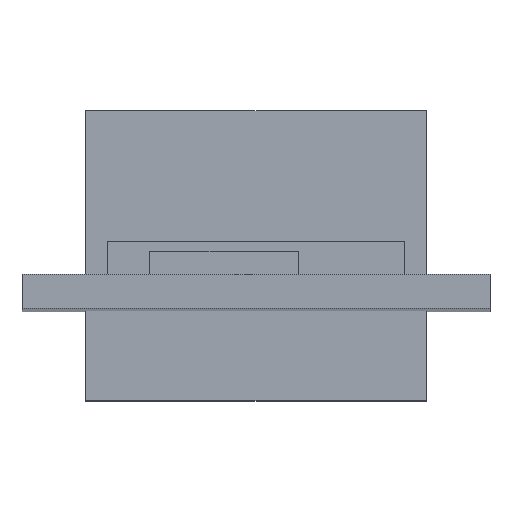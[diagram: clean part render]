
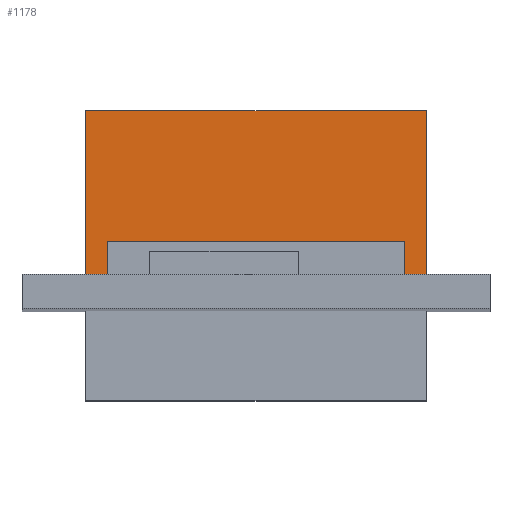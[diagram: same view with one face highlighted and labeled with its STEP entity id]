
A CAD part, top view. The second image highlights one B-rep face of the part: STEP entity #1178.
In plain terms, the highlighted planar face has unit normal (0, 0, 1).
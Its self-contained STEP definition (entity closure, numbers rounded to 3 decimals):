
#452 = PLANE('',#453);
#453 = AXIS2_PLACEMENT_3D('',#454,#455,#456);
#454 = CARTESIAN_POINT('',(-11.,0.8,6.));
#455 = DIRECTION('',(-0.,1.,0.));
#456 = DIRECTION('',(0.,0.,1.));
#480 = PLANE('',#481);
#481 = AXIS2_PLACEMENT_3D('',#482,#483,#484);
#482 = CARTESIAN_POINT('',(8.,-5.,6.));
#483 = DIRECTION('',(1.,0.,-0.));
#484 = DIRECTION('',(0.,0.,1.));
#508 = PLANE('',#509);
#509 = AXIS2_PLACEMENT_3D('',#510,#511,#512);
#510 = CARTESIAN_POINT('',(-8.,8.6,6.));
#511 = DIRECTION('',(-0.,1.,0.));
#512 = DIRECTION('',(0.,0.,1.));
#536 = PLANE('',#537);
#537 = AXIS2_PLACEMENT_3D('',#538,#539,#540);
#538 = CARTESIAN_POINT('',(-8.,-5.,6.));
#539 = DIRECTION('',(1.,0.,-0.));
#540 = DIRECTION('',(0.,0.,1.));
#761 = VERTEX_POINT('',#762);
#762 = CARTESIAN_POINT('',(8.,0.8,27.5));
#781 = EDGE_CURVE('',#782,#761,#784,.T.);
#782 = VERTEX_POINT('',#783);
#783 = CARTESIAN_POINT('',(-8.,0.8,27.5));
#784 = SURFACE_CURVE('',#785,(#789,#795),.PCURVE_S1.);
#785 = LINE('',#786,#787);
#786 = CARTESIAN_POINT('',(-9.5,0.8,27.5));
#787 = VECTOR('',#788,1.);
#788 = DIRECTION('',(1.,0.,-0.));
#789 = PCURVE('',#452,#790);
#790 = DEFINITIONAL_REPRESENTATION('',(#791),#794);
#791 = B_SPLINE_CURVE_WITH_KNOTS('',1,(#792,#793),.UNSPECIFIED.,.F.,.F.,
  (2,2),(1.5,17.5),.PIECEWISE_BEZIER_KNOTS.);
#792 = CARTESIAN_POINT('',(21.5,3.));
#793 = CARTESIAN_POINT('',(21.5,19.));
#794 = ( GEOMETRIC_REPRESENTATION_CONTEXT(2) 
PARAMETRIC_REPRESENTATION_CONTEXT() REPRESENTATION_CONTEXT('2D SPACE',''
  ) );
#795 = PCURVE('',#796,#801);
#796 = PLANE('',#797);
#797 = AXIS2_PLACEMENT_3D('',#798,#799,#800);
#798 = CARTESIAN_POINT('',(-8.,-5.,27.5));
#799 = DIRECTION('',(0.,0.,1.));
#800 = DIRECTION('',(1.,0.,-0.));
#801 = DEFINITIONAL_REPRESENTATION('',(#802),#805);
#802 = B_SPLINE_CURVE_WITH_KNOTS('',1,(#803,#804),.UNSPECIFIED.,.F.,.F.,
  (2,2),(1.5,17.5),.PIECEWISE_BEZIER_KNOTS.);
#803 = CARTESIAN_POINT('',(0.,5.8));
#804 = CARTESIAN_POINT('',(16.,5.8));
#805 = ( GEOMETRIC_REPRESENTATION_CONTEXT(2) 
PARAMETRIC_REPRESENTATION_CONTEXT() REPRESENTATION_CONTEXT('2D SPACE',''
  ) );
#1057 = EDGE_CURVE('',#761,#1058,#1060,.T.);
#1058 = VERTEX_POINT('',#1059);
#1059 = CARTESIAN_POINT('',(8.,8.6,27.5));
#1060 = SURFACE_CURVE('',#1061,(#1065,#1072),.PCURVE_S1.);
#1061 = LINE('',#1062,#1063);
#1062 = CARTESIAN_POINT('',(8.,-5.,27.5));
#1063 = VECTOR('',#1064,1.);
#1064 = DIRECTION('',(-0.,1.,0.));
#1065 = PCURVE('',#480,#1066);
#1066 = DEFINITIONAL_REPRESENTATION('',(#1067),#1071);
#1067 = LINE('',#1068,#1069);
#1068 = CARTESIAN_POINT('',(21.5,0.));
#1069 = VECTOR('',#1070,1.);
#1070 = DIRECTION('',(0.,-1.));
#1071 = ( GEOMETRIC_REPRESENTATION_CONTEXT(2) 
PARAMETRIC_REPRESENTATION_CONTEXT() REPRESENTATION_CONTEXT('2D SPACE',''
  ) );
#1072 = PCURVE('',#796,#1073);
#1073 = DEFINITIONAL_REPRESENTATION('',(#1074),#1078);
#1074 = LINE('',#1075,#1076);
#1075 = CARTESIAN_POINT('',(16.,0.));
#1076 = VECTOR('',#1077,1.);
#1077 = DIRECTION('',(0.,1.));
#1078 = ( GEOMETRIC_REPRESENTATION_CONTEXT(2) 
PARAMETRIC_REPRESENTATION_CONTEXT() REPRESENTATION_CONTEXT('2D SPACE',''
  ) );
#1108 = VERTEX_POINT('',#1109);
#1109 = CARTESIAN_POINT('',(-8.,8.6,27.5));
#1130 = EDGE_CURVE('',#1108,#1058,#1131,.T.);
#1131 = SURFACE_CURVE('',#1132,(#1136,#1143),.PCURVE_S1.);
#1132 = LINE('',#1133,#1134);
#1133 = CARTESIAN_POINT('',(-8.,8.6,27.5));
#1134 = VECTOR('',#1135,1.);
#1135 = DIRECTION('',(1.,0.,-0.));
#1136 = PCURVE('',#508,#1137);
#1137 = DEFINITIONAL_REPRESENTATION('',(#1138),#1142);
#1138 = LINE('',#1139,#1140);
#1139 = CARTESIAN_POINT('',(21.5,0.));
#1140 = VECTOR('',#1141,1.);
#1141 = DIRECTION('',(0.,1.));
#1142 = ( GEOMETRIC_REPRESENTATION_CONTEXT(2) 
PARAMETRIC_REPRESENTATION_CONTEXT() REPRESENTATION_CONTEXT('2D SPACE',''
  ) );
#1143 = PCURVE('',#796,#1144);
#1144 = DEFINITIONAL_REPRESENTATION('',(#1145),#1149);
#1145 = LINE('',#1146,#1147);
#1146 = CARTESIAN_POINT('',(0.,13.6));
#1147 = VECTOR('',#1148,1.);
#1148 = DIRECTION('',(1.,0.));
#1149 = ( GEOMETRIC_REPRESENTATION_CONTEXT(2) 
PARAMETRIC_REPRESENTATION_CONTEXT() REPRESENTATION_CONTEXT('2D SPACE',''
  ) );
#1155 = EDGE_CURVE('',#782,#1108,#1156,.T.);
#1156 = SURFACE_CURVE('',#1157,(#1161,#1168),.PCURVE_S1.);
#1157 = LINE('',#1158,#1159);
#1158 = CARTESIAN_POINT('',(-8.,-5.,27.5));
#1159 = VECTOR('',#1160,1.);
#1160 = DIRECTION('',(-0.,1.,0.));
#1161 = PCURVE('',#536,#1162);
#1162 = DEFINITIONAL_REPRESENTATION('',(#1163),#1167);
#1163 = LINE('',#1164,#1165);
#1164 = CARTESIAN_POINT('',(21.5,0.));
#1165 = VECTOR('',#1166,1.);
#1166 = DIRECTION('',(0.,-1.));
#1167 = ( GEOMETRIC_REPRESENTATION_CONTEXT(2) 
PARAMETRIC_REPRESENTATION_CONTEXT() REPRESENTATION_CONTEXT('2D SPACE',''
  ) );
#1168 = PCURVE('',#796,#1169);
#1169 = DEFINITIONAL_REPRESENTATION('',(#1170),#1174);
#1170 = LINE('',#1171,#1172);
#1171 = CARTESIAN_POINT('',(0.,0.));
#1172 = VECTOR('',#1173,1.);
#1173 = DIRECTION('',(0.,1.));
#1174 = ( GEOMETRIC_REPRESENTATION_CONTEXT(2) 
PARAMETRIC_REPRESENTATION_CONTEXT() REPRESENTATION_CONTEXT('2D SPACE',''
  ) );
#1178 = ADVANCED_FACE('',(#1179),#796,.T.);
#1179 = FACE_BOUND('',#1180,.T.);
#1180 = EDGE_LOOP('',(#1181,#1182,#1183,#1184));
#1181 = ORIENTED_EDGE('',*,*,#1155,.F.);
#1182 = ORIENTED_EDGE('',*,*,#781,.T.);
#1183 = ORIENTED_EDGE('',*,*,#1057,.T.);
#1184 = ORIENTED_EDGE('',*,*,#1130,.F.);
